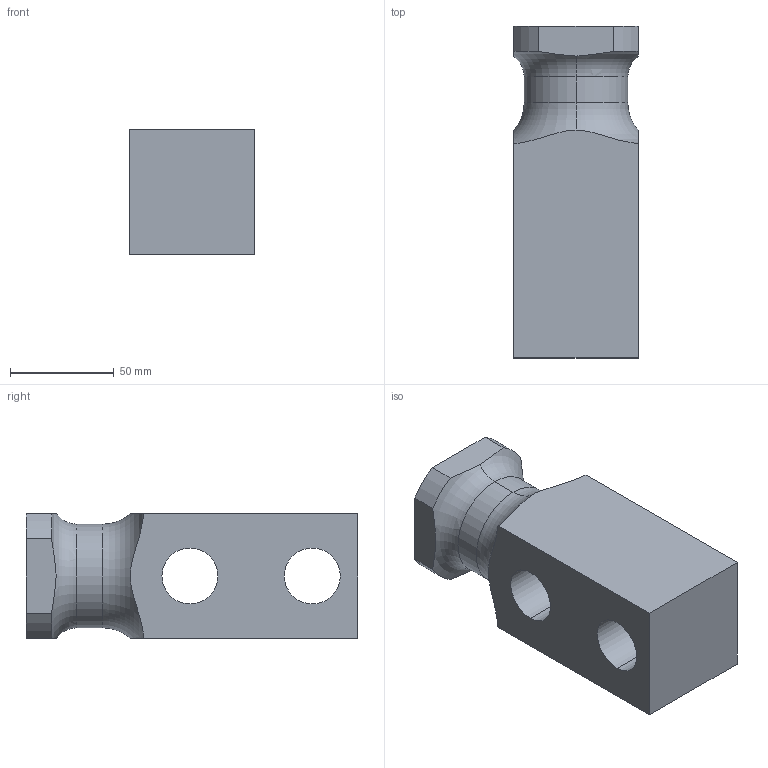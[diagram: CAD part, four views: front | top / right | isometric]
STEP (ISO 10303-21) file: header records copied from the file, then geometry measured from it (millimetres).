
FILE_DESCRIPTION(('CATIA V5 STEP Exchange'),'2;1');
FILE_NAME('C:\Users\Raffaele\Desktop\3D X SITO CF\PERNI -STAFFE SOLLEVAMENTO\395V\GSB_OILLESS_C10104060160\STEP-2.03\395V-04-060-160.stp','2019-07-03T12:40:37+00:00',('none'),('none'),'CATIA Version 5 Release 20 GA (IN-10)','CATIA V5 STEP AP203','none');
FILE_SCHEMA(('CONFIG_CONTROL_DESIGN'));
Length unit declared in the file: millimetre
Products named in the file (1): 395V-04-060-160
Bounding box: 60 x 160 x 60 mm (x, y, z)
Volume: 416663 mm3; surface area: 53044.3 mm2
Topology: 1 solids, 1 shells, 30 faces, 102 edges, 76 vertices
Faces by surface type: cylinder 14, plane 12, torus 4
Entity records: 1447 total; most frequent: CARTESIAN_POINT 544, ORIENTED_EDGE 204, DIRECTION 134, EDGE_CURVE 102, VERTEX_POINT 76, AXIS2_PLACEMENT_3D 75, CIRCLE 44, EDGE_LOOP 36
